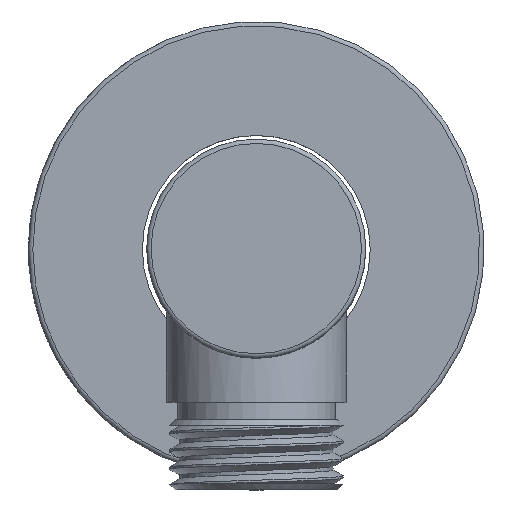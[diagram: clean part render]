
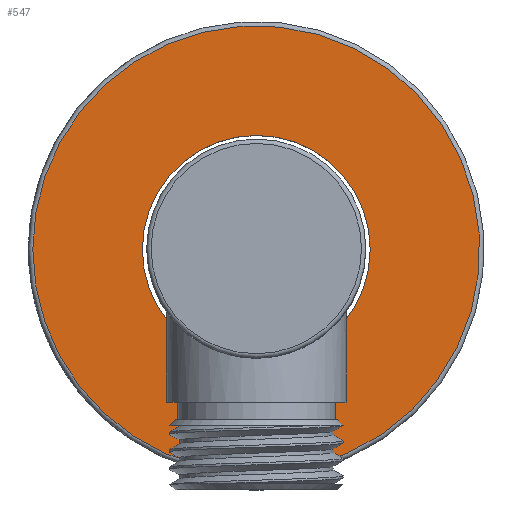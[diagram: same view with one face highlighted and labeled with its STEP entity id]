
A CAD part, top view. The second image highlights one B-rep face of the part: STEP entity #547.
In plain terms, the highlighted planar face has unit normal (0, 0, 1).
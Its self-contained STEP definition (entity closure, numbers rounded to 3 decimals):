
#31=FACE_BOUND('',#113,.T.);
#43=PLANE('',#633);
#75=FACE_OUTER_BOUND('',#112,.T.);
#112=EDGE_LOOP('',(#497,#498,#499));
#113=EDGE_LOOP('',(#500));
#144=CIRCLE('',#620,13.);
#150=CIRCLE('',#629,25.5);
#152=CIRCLE('',#631,25.5);
#153=CIRCLE('',#632,25.5);
#255=VERTEX_POINT('',#2271);
#261=VERTEX_POINT('',#2288);
#262=VERTEX_POINT('',#2289);
#263=VERTEX_POINT('',#2292);
#332=EDGE_CURVE('',#255,#255,#144,.F.);
#339=EDGE_CURVE('',#261,#262,#150,.T.);
#341=EDGE_CURVE('',#262,#263,#152,.T.);
#342=EDGE_CURVE('',#263,#261,#153,.T.);
#497=ORIENTED_EDGE('',*,*,#339,.F.);
#498=ORIENTED_EDGE('',*,*,#342,.F.);
#499=ORIENTED_EDGE('',*,*,#341,.F.);
#500=ORIENTED_EDGE('',*,*,#332,.T.);
#547=ADVANCED_FACE('',(#75,#31),#43,.T.);
#620=AXIS2_PLACEMENT_3D('',#2273,#766,#767);
#629=AXIS2_PLACEMENT_3D('',#2290,#785,#786);
#631=AXIS2_PLACEMENT_3D('',#2293,#789,#790);
#632=AXIS2_PLACEMENT_3D('',#2294,#791,#792);
#633=AXIS2_PLACEMENT_3D('',#2295,#793,#794);
#766=DIRECTION('center_axis',(0.,0.,
1.));
#767=DIRECTION('ref_axis',(-1.,0.,0.));
#785=DIRECTION('center_axis',(0.,0.,
-1.));
#786=DIRECTION('ref_axis',(0.241,-0.971,0.));
#789=DIRECTION('center_axis',(0.,0.,
-1.));
#790=DIRECTION('ref_axis',(0.241,-0.971,0.));
#791=DIRECTION('center_axis',(0.,0.,
-1.));
#792=DIRECTION('ref_axis',(-0.241,0.971,0.));
#793=DIRECTION('center_axis',(0.,0.,
1.));
#794=DIRECTION('ref_axis',(1.,0.,0.));
#2271=CARTESIAN_POINT('',(54.,0.,-33.));
#2273=CARTESIAN_POINT('Origin',(41.,0.,-33.));
#2288=CARTESIAN_POINT('',(47.141,-24.75,-33.));
#2289=CARTESIAN_POINT('',(15.5,0.,-33.));
#2290=CARTESIAN_POINT('Origin',(41.,0.,-33.));
#2292=CARTESIAN_POINT('',(34.859,24.75,-33.));
#2293=CARTESIAN_POINT('Origin',(41.,0.,-33.));
#2294=CARTESIAN_POINT('Origin',(41.,0.,-33.));
#2295=CARTESIAN_POINT('Origin',(41.,0.,-33.));
